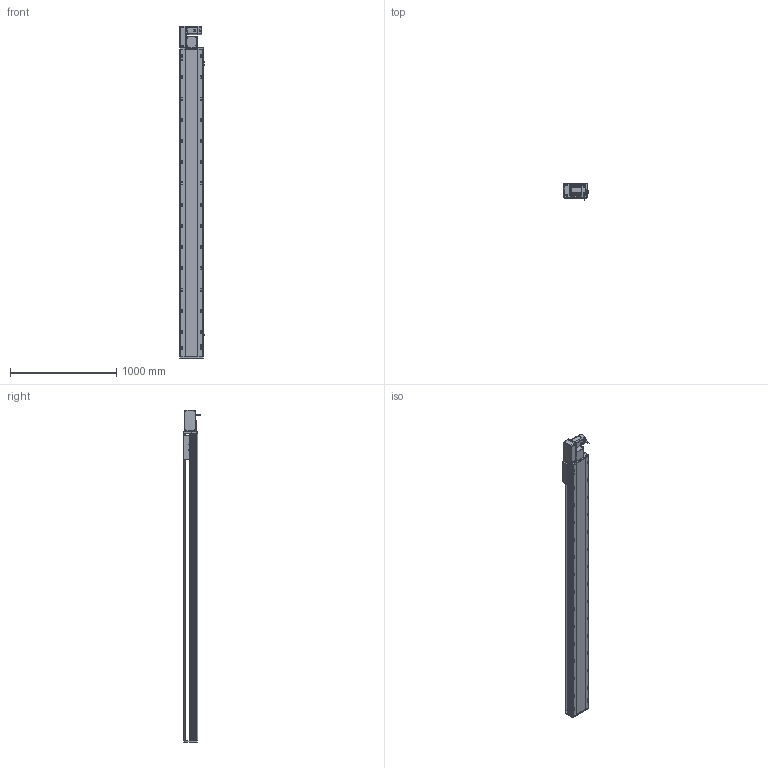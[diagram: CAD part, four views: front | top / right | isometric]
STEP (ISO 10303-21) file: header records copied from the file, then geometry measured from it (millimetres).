
FILE_DESCRIPTION (( 'STEP AP214' ), '1' );
FILE_NAME ('RTB22S-XX-2550-L-M75-C4.STEP', '2025-12-12T03:28:03', ( '' ), ( '' ), 'SwSTEP 2.0', 'SolidWorks 2018', '' );
FILE_SCHEMA (( 'AUTOMOTIVE_DESIGN' ));
Length unit declared in the file: millimetre
Products named in the file (14): RTB22S-GY-017P^RTB22S-L-々湍釱蚾饜_RTB22S-XX-XX-L-M75-C4; RTB22S-L-004賑釱^RTB22S-XX-XX-L-M75-C4; RTB22S-GY-005P^RTB22S-L-々湍釱蚾饜_RTB22S-XX-XX-L-M75-C4; RTB22S-XX-2550-L-M75-C4; RTB22S-GY-007奻裔^RTB22S-XX-XX-L-M75-C4; RTB22S-GY-014--々湍釱^RTB22S-L-々湍釱蚾饜_RTB22S-XX-XX-L-M75-C4; RTB22S-GY-001耜裔^RTB22S-XX-XX-L-M75-C4; RTB22S-L-011菁釱^RTB22S-XX-XX-L-M75-C4; 750W萇儂^RTB22S-XX-XX-L-M75-C4; RTB22S-GY-018P^RTB22S-L-々湍釱蚾饜_RTB22S-XX-XX-L-M75-C4; RTB22S-L-々湍釱蚾饜^RTB22S-XX-XX-L-M75-C4; RTH22-GY-013外置感应片^RTB22S-XX-XX-L-M75-C4; OMRON EE-SX672 传感器^RTB22S-XX-XX-L-M75-C4; RTB22S-GY-008-M75--萇儂啣^RTB22S-L-々湍釱蚾饜_RTB22S-XX-XX-L-M75-C4
Assembly tree (16 placements, depth 3):
  RTB22S-XX-2550-L-M75-C4
    RTB22S-L-011菁釱^RTB22S-XX-XX-L-M75-C4
    750W萇儂^RTB22S-XX-XX-L-M75-C4
    RTB22S-L-004賑釱^RTB22S-XX-XX-L-M75-C4
    OMRON EE-SX672 传感器^RTB22S-XX-XX-L-M75-C4  x3
    RTH22-GY-013外置感应片^RTB22S-XX-XX-L-M75-C4
    RTB22S-GY-007奻裔^RTB22S-XX-XX-L-M75-C4
    RTB22S-GY-001耜裔^RTB22S-XX-XX-L-M75-C4
    RTB22S-L-々湍釱蚾饜^RTB22S-XX-XX-L-M75-C4
      RTB22S-GY-014--々湍釱^RTB22S-L-々湍釱蚾饜_RTB22S-XX-XX-L-M75-C4
      RTB22S-GY-017P^RTB22S-L-々湍釱蚾饜_RTB22S-XX-XX-L-M75-C4  x2
      RTB22S-GY-005P^RTB22S-L-々湍釱蚾饜_RTB22S-XX-XX-L-M75-C4
      RTB22S-GY-008-M75--萇儂啣^RTB22S-L-々湍釱蚾饜_RTB22S-XX-XX-L-M75-C4
      RTB22S-GY-018P^RTB22S-L-々湍釱蚾饜_RTB22S-XX-XX-L-M75-C4
Bounding box: 238.5 x 162.7 x 3129 mm (x, y, z)
Volume: 39347748.7 mm3; surface area: 4021737.6 mm2
Topology: 15 solids, 15 shells, 2109 faces, 5736 edges, 3662 vertices
Faces by surface type: plane 929, cylinder 706, bspline 296, cone 166, sphere 8, torus 4
Entity records: 57374 total; most frequent: CARTESIAN_POINT 16208, ORIENTED_EDGE 8204, DIRECTION 8016, EDGE_CURVE 4102, AXIS2_PLACEMENT_3D 2874, VERTEX_POINT 2666, VECTOR 2268, LINE 2268
